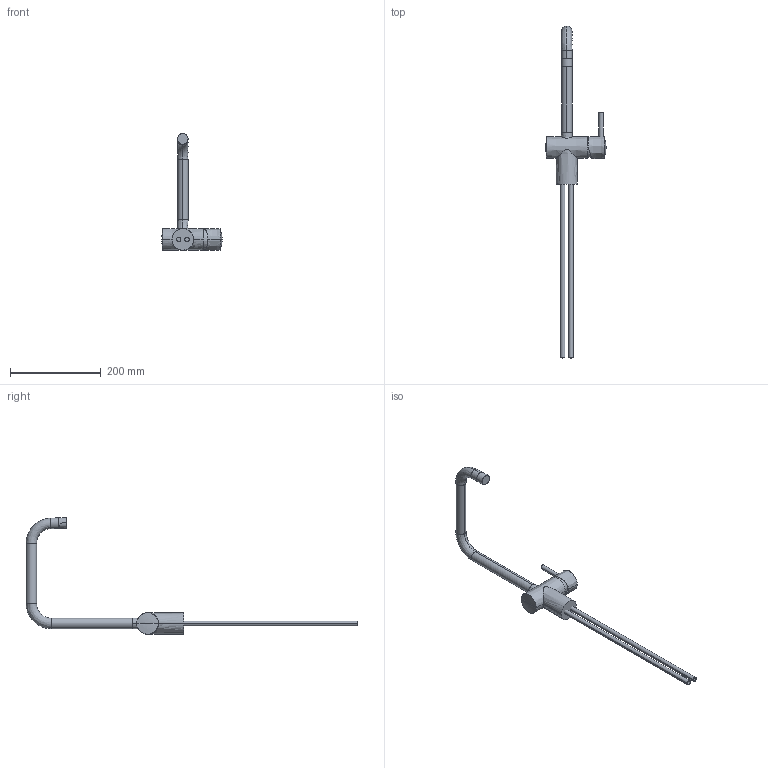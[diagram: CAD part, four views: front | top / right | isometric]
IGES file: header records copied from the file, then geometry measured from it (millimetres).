
Start section:  PTC IGES file: 18087_web.igs
Global section: file name: 18087_web.igs; native system: Creo Parametric by PTC Inc.; preprocessor: 2017380; author: jaj; organization: Unknown; date: 20180705.105456; units: millimetre
Bounding box: 132.5 x 729.65 x 256.84 mm (x, y, z)
Surface area: 125263.4 mm2 (no closed solid volume)
Topology: 0 solids, 0 shells, 52 faces, 334 edges, 380 vertices
Faces by surface type: revolution 47, bspline 5
